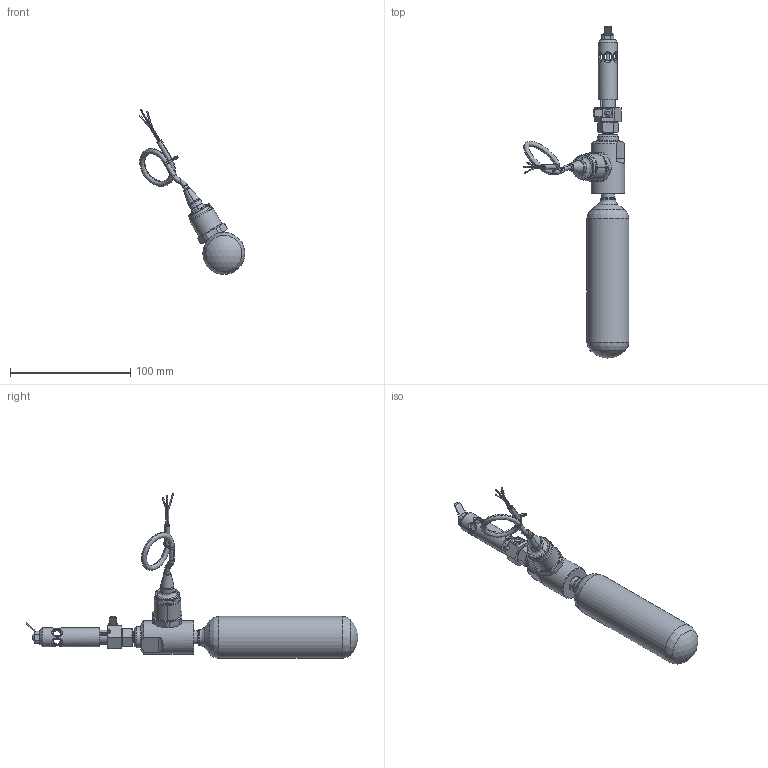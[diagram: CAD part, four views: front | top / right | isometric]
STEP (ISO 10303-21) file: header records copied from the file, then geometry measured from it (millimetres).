
FILE_DESCRIPTION(/* description */ (''),/* implementation_level */ '2;1');
FILE_NAME(/* name */ '40-057-20-31-01 - S-AMFE & R-AMFE - cylinder size 1 and pressure sensor (cable).stp',/* time_stamp */ '2025-03-26T16:18:26+01:00',/* author */ ('ASc'),/* organization */ (''),/* preprocessor_version */ 'ST-DEVELOPER v19.2',/* originating_system */ 'Autodesk Inventor 2023',/* authorisation */ '');
FILE_SCHEMA (('AUTOMOTIVE_DESIGN { 1 0 10303 214 3 1 1 }'));
Length unit declared in the file: millimetre
Products named in the file (1): 40-057-20-31-01_Vereinfachen_1
Bounding box: 88.1 x 276.55 x 137.19 mm (x, y, z)
Volume: 173221.5 mm3; surface area: 32062.1 mm2
Topology: 1 solids, 1 shells, 287 faces, 790 edges, 513 vertices
Faces by surface type: bspline 116, plane 106, cylinder 32, cone 29, torus 3, sphere 1
Full cylindrical faces by diameter (mm): 2.9 x1, 5.7 x2, 6.5 x6, 9.4 x1, 11 x1, 11.9 x1, 12 x1, 12.5 x1, 13 x1, 15 x1, 16 x1, 17.5 x1, 28 x1, 35 x1
Entity records: 17868 total; most frequent: CARTESIAN_POINT 10895, ORIENTED_EDGE 1578, DIRECTION 1013, EDGE_CURVE 789, VERTEX_POINT 513, AXIS2_PLACEMENT_3D 376, EDGE_LOOP 318, B_SPLINE_CURVE_WITH_KNOTS 294
